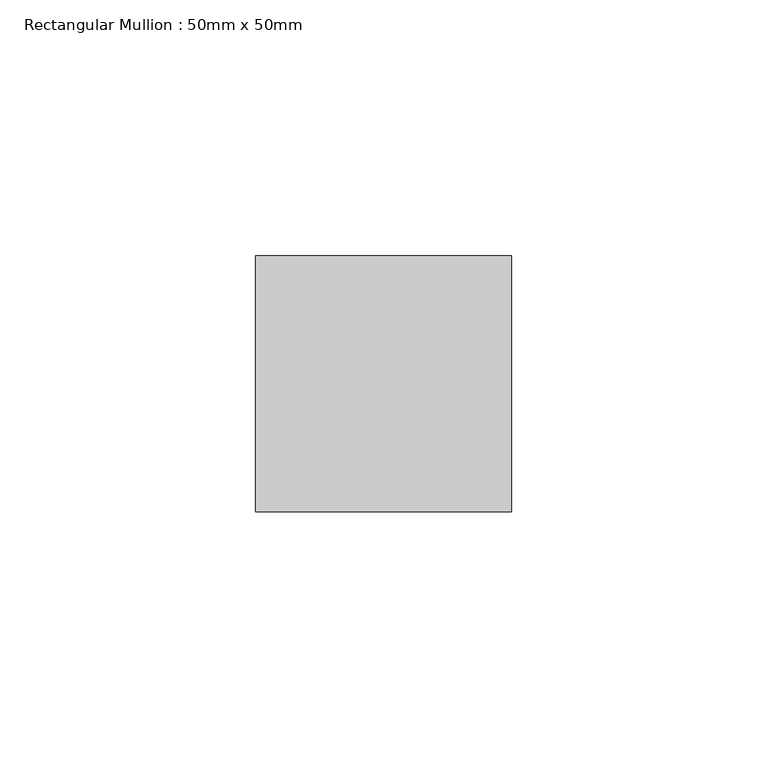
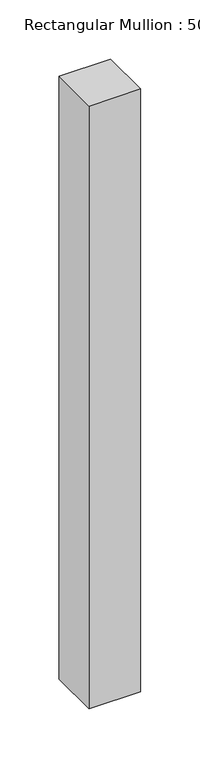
"""IFC4 building model written with IfcOpenShell, lengths in millimetres: member geometry, Rectangular Mullion : 50mm x 50mm."""

from ifc_helpers import new_model, si_unit, frame, origin, place, context, project, spatial, polyline, outline, extrude, source, transform, mapped, element, save


def rectangular_mullion_50mm_x_50mm_57ad1dd2(model_context):
    return source(origin(), model_context, "Body", "SweptSolid", [
        extrude(outline(polyline([(0.0, 25.0), (0.0, -25.0), (-50.0, -25.0), (-50.0, 25.0), (0.0, 25.0)])), frame((0.0, 0.0, -618.8094153), z_axis=(0.0, 0.0, 1.0), x_axis=(1.0, 0.0, 0.0)), (0.0, 0.0, 1.0), 618.8094153),
    ])


if __name__ == "__main__":
    model = new_model("IFC4")
    model_context = context("Model", 3, world=origin())
    ifc_project = project(units=[si_unit("LENGTHUNIT", "METRE", prefix="MILLI")], contexts=[model_context])
    site = spatial("IfcSite", under=ifc_project)
    building = spatial("IfcBuilding", under=site)
    placement = place(None, origin())
    rectangular_mullion_50mm_x_50mm_shape = rectangular_mullion_50mm_x_50mm_57ad1dd2(model_context)
    element("IfcMember", 1, ObjectType="Rectangular Mullion : 50mm x 50mm", at=placement, inside=building, context=model_context, shape_type="MappedRepresentation", body=[
        mapped(rectangular_mullion_50mm_x_50mm_shape, transform((0.0, 0.0, 0.0), x_axis=(1.0, 0.0, 0.0), y_axis=(0.0, 1.0, 0.0), z_axis=(0.0, 0.0, 1.0))),
    ])
    save(model, "model.ifc")
